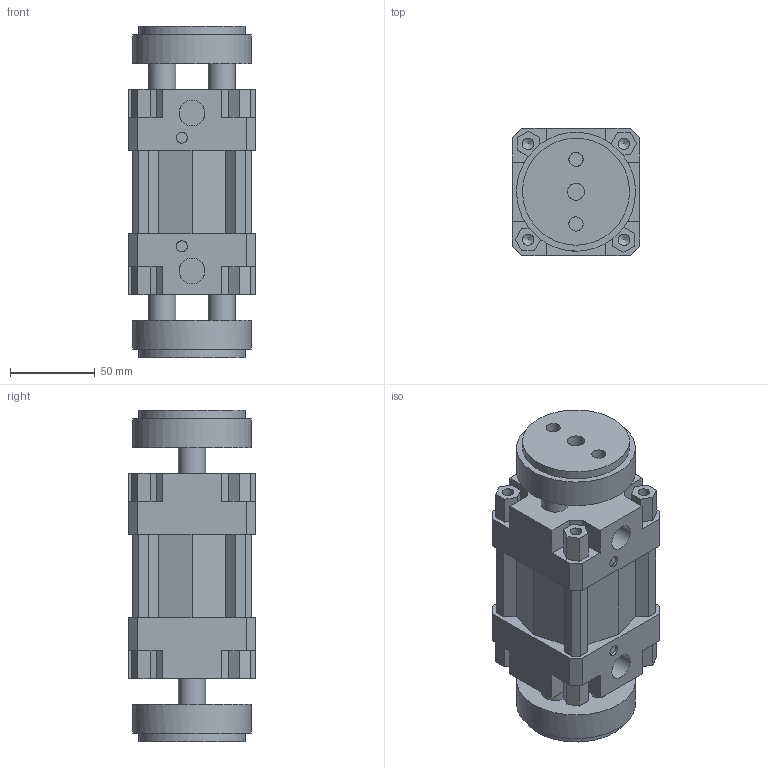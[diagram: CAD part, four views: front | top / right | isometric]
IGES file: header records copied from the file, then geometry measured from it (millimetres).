
Global section: file name: 132#_063_0000_06; native system: Autodesk Inventor 2014; preprocessor: unknown; author: A. Manieri; date: 20161006.155822; units: millimetre
Bounding box: 75 x 75 x 195 mm (x, y, z)
Volume: 740894.4 mm3; surface area: 133378.7 mm2
Topology: 2 solids, 2 shells, 190 faces, 518 edges, 354 vertices
Faces by surface type: bspline 190
